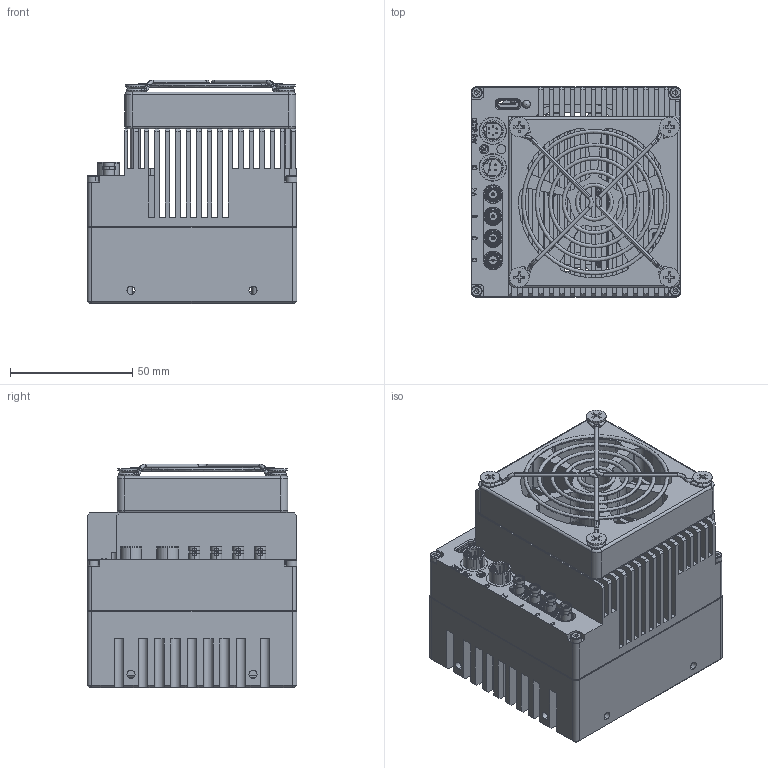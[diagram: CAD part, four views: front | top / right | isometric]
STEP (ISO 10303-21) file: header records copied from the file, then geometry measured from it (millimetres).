
FILE_DESCRIPTION (( 'STEP AP203' ), '1' );
FILE_NAME ('PH9KCXP12-530KT256-V1.0.0.STEP', '2024-09-03T08:01:21', ( 'Windows User' ), ( 'P R C' ), 'SwSTEP 2.0', 'SolidWorks 2017', '' );
FILE_SCHEMA (( 'CONFIG_CONTROL_DESIGN' ));
Length unit declared in the file: millimetre
Products named in the file (1): PH9KCXP12-530KT256-V1.0.0
Bounding box: 86 x 86 x 91.59 mm (x, y, z)
Surface area: 116418.6 mm2 (no closed solid volume)
Topology: 0 solids, 127 shells, 1276 faces, 5030 edges, 3796 vertices
Faces by surface type: plane 566, cylinder 450, cone 111, bspline 109, sphere 24, torus 16
Entity records: 62016 total; most frequent: CARTESIAN_POINT 22040, ORIENTED_EDGE 7782, DIRECTION 7708, EDGE_CURVE 5001, VERTEX_POINT 3785, LINE 2756, VECTOR 2756, AXIS2_PLACEMENT_3D 2476
